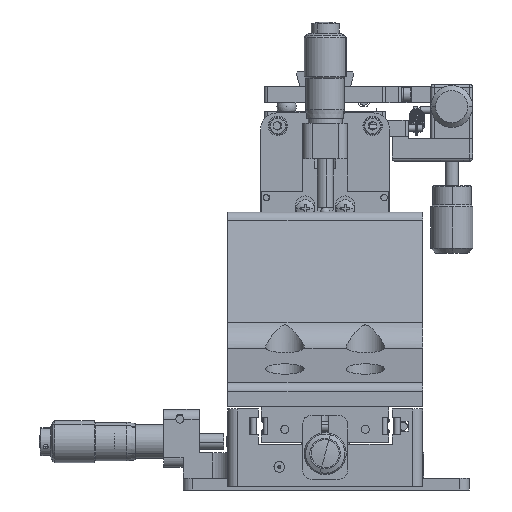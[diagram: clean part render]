
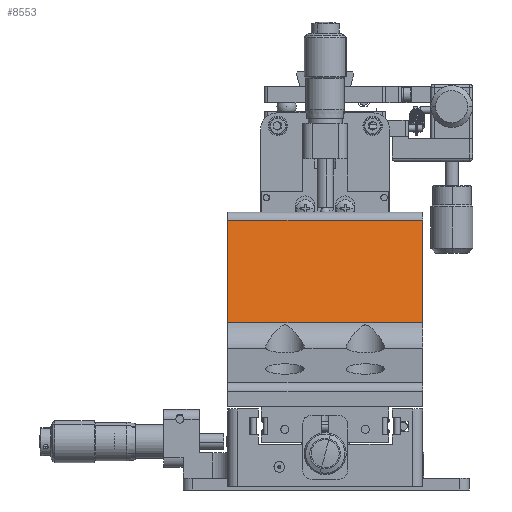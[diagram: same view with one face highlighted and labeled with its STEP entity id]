
A CAD part, front view. The second image highlights one B-rep face of the part: STEP entity #8553.
In plain terms, the highlighted planar face has unit normal (0, -0.985, 0.174).
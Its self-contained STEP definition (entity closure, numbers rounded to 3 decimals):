
#1324 = VECTOR ( 'NONE', #55353, 1000. ) ;
#1396 = CARTESIAN_POINT ( 'NONE',  ( -30.575, 24.069, 83.821 ) ) ;
#4796 = VECTOR ( 'NONE', #11751, 1000. ) ;
#7139 = CARTESIAN_POINT ( 'NONE',  ( 29.925, 18.438, 51.889 ) ) ;
#8553 = ADVANCED_FACE ( 'NONE', ( #60277 ), #12090, .F. ) ;
#11751 = DIRECTION ( 'NONE',  ( 1., 0., 0. ) ) ;
#12090 = PLANE ( 'NONE',  #53161 ) ;
#12837 = LINE ( 'NONE', #32182, #4796 ) ;
#13676 = EDGE_CURVE ( 'NONE', #33703, #45620, #34735, .T. ) ;
#14462 = CARTESIAN_POINT ( 'NONE',  ( -30.575, 24.506, 86.3 ) ) ;
#15155 = CARTESIAN_POINT ( 'NONE',  ( 29.925, 24.506, 86.3 ) ) ;
#17745 = VERTEX_POINT ( 'NONE', #33868 ) ;
#27089 = CARTESIAN_POINT ( 'NONE',  ( 29.925, 24.069, 83.821 ) ) ;
#27651 = LINE ( 'NONE', #14462, #1324 ) ;
#29657 = ORIENTED_EDGE ( 'NONE', *, *, #30172, .T. ) ;
#30172 = EDGE_CURVE ( 'NONE', #33703, #35189, #60489, .T. ) ;
#31125 = ORIENTED_EDGE ( 'NONE', *, *, #13676, .F. ) ;
#32182 = CARTESIAN_POINT ( 'NONE',  ( 29.925, 18.438, 51.889 ) ) ;
#33145 = VECTOR ( 'NONE', #50911, 1000. ) ;
#33703 = VERTEX_POINT ( 'NONE', #27089 ) ;
#33868 = CARTESIAN_POINT ( 'NONE',  ( -30.575, 18.438, 51.889 ) ) ;
#34735 = LINE ( 'NONE', #15155, #33145 ) ;
#35189 = VERTEX_POINT ( 'NONE', #1396 ) ;
#37994 = EDGE_LOOP ( 'NONE', ( #31125, #29657, #61264, #63468 ) ) ;
#44043 = DIRECTION ( 'NONE',  ( -1., 0., 0. ) ) ;
#45620 = VERTEX_POINT ( 'NONE', #7139 ) ;
#46301 = EDGE_CURVE ( 'NONE', #17745, #45620, #12837, .T. ) ;
#49431 = CARTESIAN_POINT ( 'NONE',  ( 29.925, 24.506, 86.3 ) ) ;
#50694 = DIRECTION ( 'NONE',  ( 0., 0.174, 0.985 ) ) ;
#50911 = DIRECTION ( 'NONE',  ( 0., -0.174, -0.985 ) ) ;
#53161 = AXIS2_PLACEMENT_3D ( 'NONE', #49431, #55617, #50694 ) ;
#54597 = EDGE_CURVE ( 'NONE', #35189, #17745, #27651, .T. ) ;
#55353 = DIRECTION ( 'NONE',  ( 0., -0.174, -0.985 ) ) ;
#55617 = DIRECTION ( 'NONE',  ( 0., 0.985, -0.174 ) ) ;
#60277 = FACE_OUTER_BOUND ( 'NONE', #37994, .T. ) ;
#60489 = LINE ( 'NONE', #64053, #62909 ) ;
#61264 = ORIENTED_EDGE ( 'NONE', *, *, #54597, .T. ) ;
#62909 = VECTOR ( 'NONE', #44043, 1000. ) ;
#63468 = ORIENTED_EDGE ( 'NONE', *, *, #46301, .T. ) ;
#64053 = CARTESIAN_POINT ( 'NONE',  ( 29.925, 24.069, 83.821 ) ) ;
